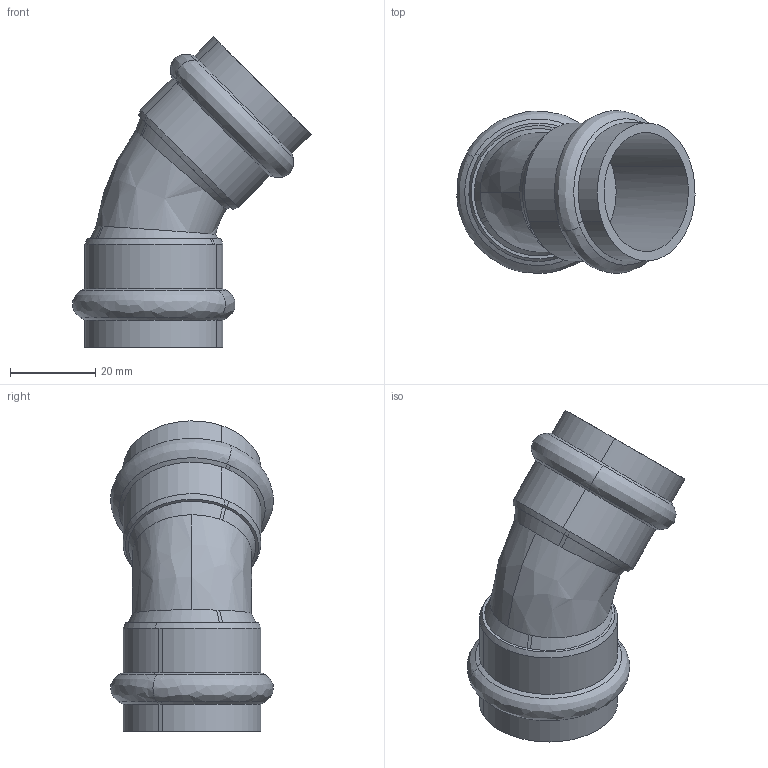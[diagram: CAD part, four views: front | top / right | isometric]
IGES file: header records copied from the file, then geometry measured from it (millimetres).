
Start section: 3D InterOp IGES (Version 25 0 1), Spatial Corp. Copyright (c) 1999-2007.
Global section: file name: pim0003043.igs; native system: Spatial Corp.; preprocessor: 3D InterOp ACIS/IGES; author: CAD-PIM; organization: TransMagic, Inc.; date: 20150319.142829; units: millimetre
Bounding box: 55.98 x 38.25 x 72.94 mm (x, y, z)
Volume: 28292.2 mm3; surface area: 13779.9 mm2
Topology: 1 solids, 1 shells, 54 faces, 146 edges, 98 vertices
Faces by surface type: bspline 54
